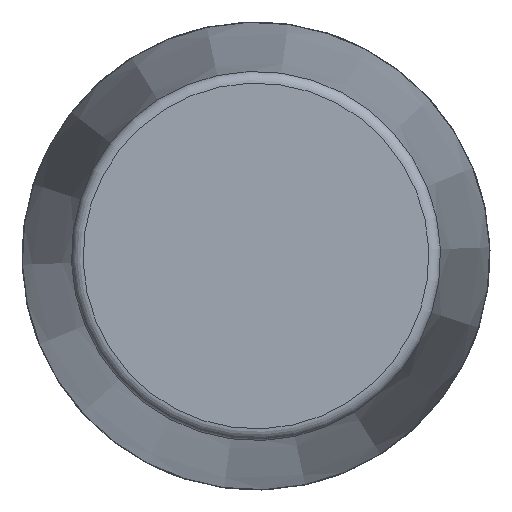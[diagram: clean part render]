
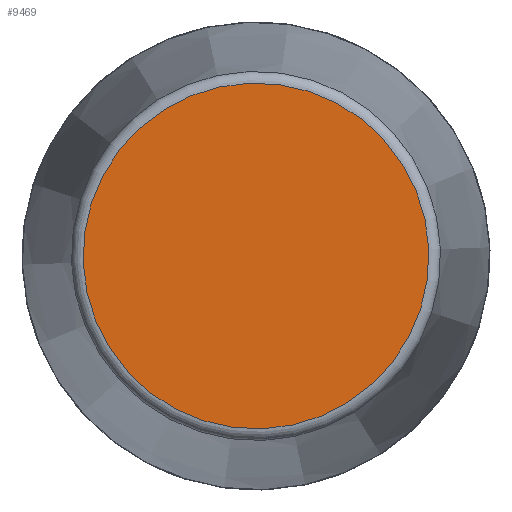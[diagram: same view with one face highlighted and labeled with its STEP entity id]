
A CAD part, front view. The second image highlights one B-rep face of the part: STEP entity #9469.
In plain terms, the highlighted planar face has unit normal (0, -1, 0) as drawn and (1, 0, 0) by its records, which use the part's own axes.
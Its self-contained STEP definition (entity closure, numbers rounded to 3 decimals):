
#224=PLANE('',#9805);
#3203=FACE_OUTER_BOUND('',#3816,.T.);
#3816=EDGE_LOOP('',(#8911));
#3857=CIRCLE('',#9801,73.839);
#4791=VERTEX_POINT('',#18232);
#6167=EDGE_CURVE('',#4791,#4791,#3857,.T.);
#8911=ORIENTED_EDGE('',*,*,#6167,.F.);
#9469=ADVANCED_FACE('',(#3203),#224,.T.);
#9801=AXIS2_PLACEMENT_3D('',#18233,#11036,#11037);
#9805=AXIS2_PLACEMENT_3D('',#18239,#11044,#11045);
#11036=DIRECTION('center_axis',(-1.,0.,0.));
#11037=DIRECTION('ref_axis',(0.,0.,
1.));
#11044=DIRECTION('center_axis',(1.,0.,0.));
#11045=DIRECTION('ref_axis',(0.,0.,-1.));
#18232=CARTESIAN_POINT('',(381.5,0.,-73.839));
#18233=CARTESIAN_POINT('Origin',(381.5,0.,0.));
#18239=CARTESIAN_POINT('Origin',(381.5,0.,0.));
